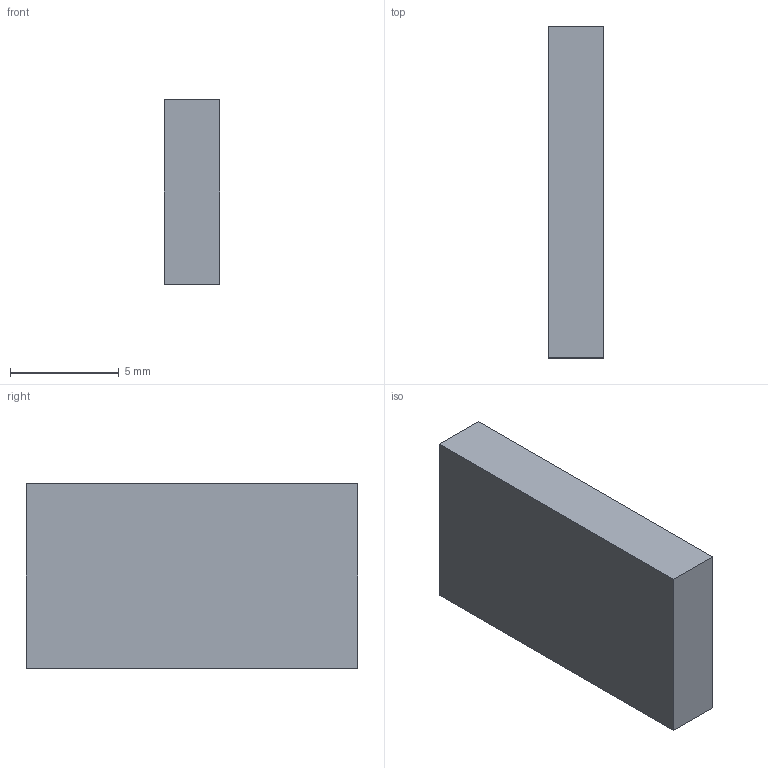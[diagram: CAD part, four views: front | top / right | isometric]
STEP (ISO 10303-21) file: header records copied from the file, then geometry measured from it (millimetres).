
FILE_DESCRIPTION(('Through-hole socket strip 1x6, 2.54 mm pitch -- body envelope 8.50 mm tall (2.54 mm socket strip, mating height (ICD-EEG-006 section 4))'),'2;1');
FILE_NAME('PinSocket_1x06_P2.54mm_Vertical','2026-09-08T00:00:00',('TI One Voice research programme'),(''),'EEG-CAR-01 step_write.py','','CC BY-SA 4.0');
FILE_SCHEMA(('AUTOMOTIVE_DESIGN { 1 0 10303 214 1 1 1 1 }'));
Length unit declared in the file: millimetre
Products named in the file (1): PinSocket_1x06_P2.54mm_Vertical
Bounding box: 2.54 x 15.24 x 8.5 mm (x, y, z)
Volume: 329 mm3; surface area: 379.7 mm2
Topology: 1 solids, 1 shells, 6 faces, 12 edges, 8 vertices
Faces by surface type: plane 6
Entity records: 67 total; most frequent: DIRECTION 14, CARTESIAN_POINT 9, AXIS2_PLACEMENT_3D 7, POLY_LOOP 6, FACE_OUTER_BOUND 6, PLANE 6, FACE_SURFACE 6, UNCERTAINTY_MEASURE_WITH_UNIT 1
